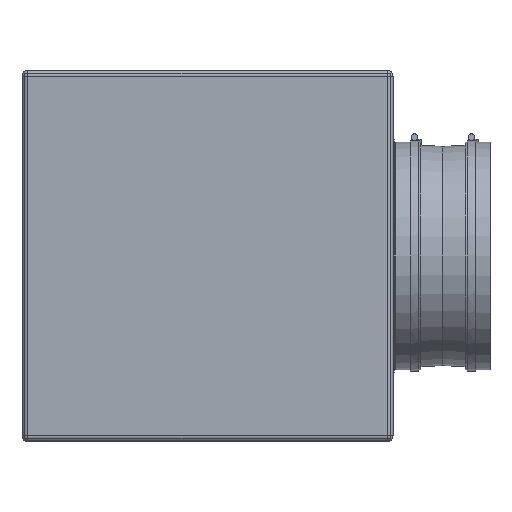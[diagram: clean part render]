
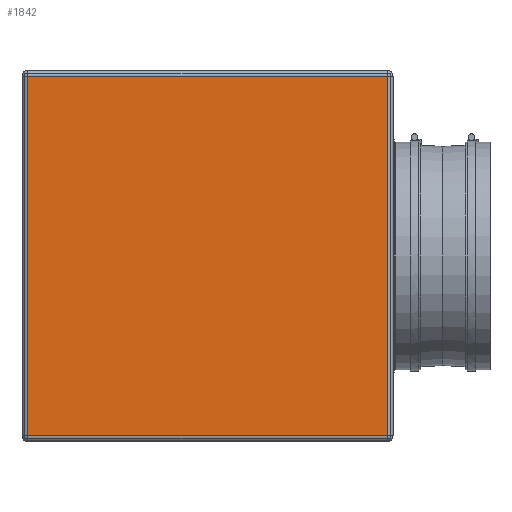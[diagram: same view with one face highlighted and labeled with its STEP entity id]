
A CAD part, left-side view. The second image highlights one B-rep face of the part: STEP entity #1842.
In plain terms, the highlighted planar face has unit normal (-1, 0, 0).
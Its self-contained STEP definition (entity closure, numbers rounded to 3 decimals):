
#161=PLANE('',#2056);
#258=FACE_OUTER_BOUND('',#427,.T.);
#427=EDGE_LOOP('',(#1455,#1456,#1457,#1458));
#577=LINE('',#2950,#671);
#580=LINE('',#2981,#674);
#582=LINE('',#2984,#676);
#595=LINE('',#3017,#689);
#671=VECTOR('',#2386,10.);
#674=VECTOR('',#2425,10.);
#676=VECTOR('',#2429,10.);
#689=VECTOR('',#2474,10.);
#919=VERTEX_POINT('',#2938);
#920=VERTEX_POINT('',#2942);
#923=VERTEX_POINT('',#2952);
#932=VERTEX_POINT('',#2977);
#1097=EDGE_CURVE('',#920,#919,#577,.T.);
#1112=EDGE_CURVE('',#923,#932,#580,.T.);
#1114=EDGE_CURVE('',#932,#920,#582,.T.);
#1133=EDGE_CURVE('',#919,#923,#595,.T.);
#1455=ORIENTED_EDGE('',*,*,#1112,.F.);
#1456=ORIENTED_EDGE('',*,*,#1133,.F.);
#1457=ORIENTED_EDGE('',*,*,#1097,.F.);
#1458=ORIENTED_EDGE('',*,*,#1114,.F.);
#1842=ADVANCED_FACE('',(#258),#161,.T.);
#2056=AXIS2_PLACEMENT_3D('',#3019,#2477,#2478);
#2386=DIRECTION('',(0.,1.,0.));
#2425=DIRECTION('',(0.,-1.,0.));
#2429=DIRECTION('',(0.,0.,-1.));
#2474=DIRECTION('',(0.,0.,1.));
#2477=DIRECTION('center_axis',(-1.,0.,0.));
#2478=DIRECTION('ref_axis',(0.,0.,1.));
#2938=CARTESIAN_POINT('',(-335.,325.,-325.));
#2942=CARTESIAN_POINT('',(-335.,-325.,-325.));
#2950=CARTESIAN_POINT('',(-335.,0.,-325.));
#2952=CARTESIAN_POINT('',(-335.,325.,325.));
#2977=CARTESIAN_POINT('',(-335.,-325.,325.));
#2981=CARTESIAN_POINT('',(-335.,0.,325.));
#2984=CARTESIAN_POINT('',(-335.,-325.,-167.5));
#3017=CARTESIAN_POINT('',(-335.,325.,-167.5));
#3019=CARTESIAN_POINT('Origin',(-335.,0.,-335.));
